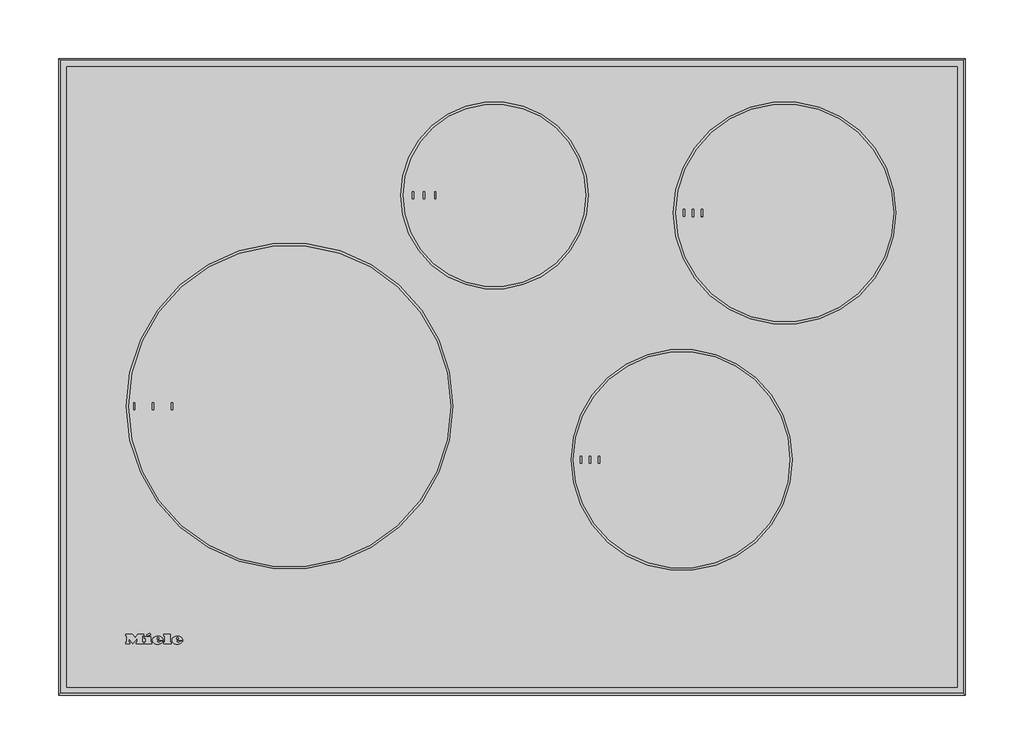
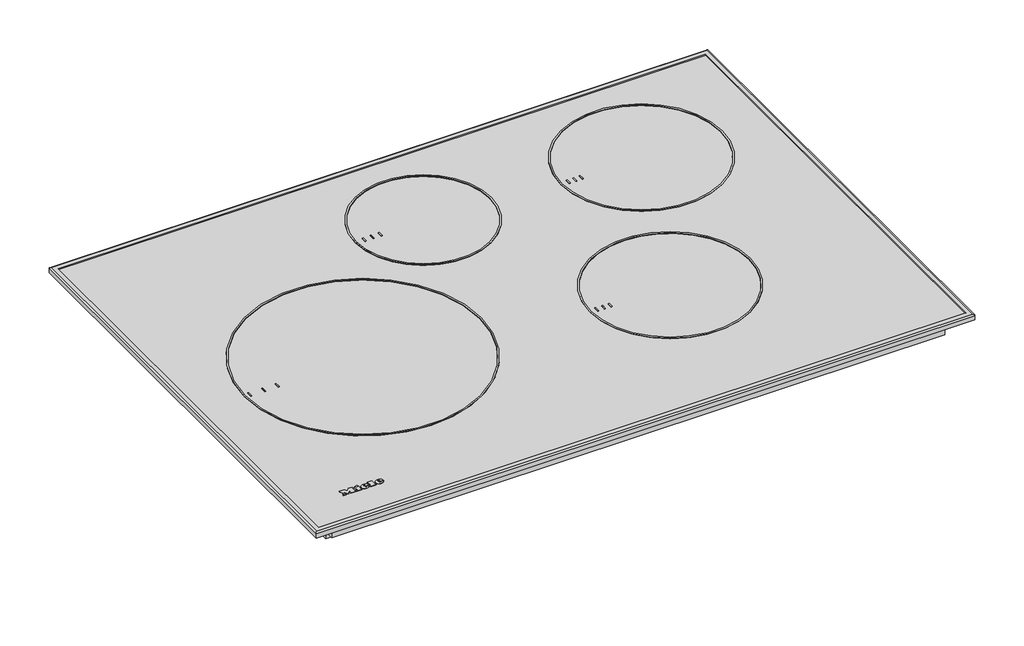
# Not in any storey: 1 proxy.
"""IFC4 building model written with IfcOpenShell, lengths in millimetres."""

from ifc_helpers import new_model, si_unit, origin, place, context, project, spatial, transform, mapped, element, save
from components import specialty_equipment_73e40a91

model = new_model("IFC4")

# Units and contexts
model_context = context("Model", 3, world=origin())
ifc_project = project(units=[si_unit("LENGTHUNIT", "METRE", prefix="MILLI")], contexts=[model_context])

# Site, building
site = spatial("IfcSite", under=ifc_project)
building = spatial("IfcBuilding", under=site)

# Proxy
placement = place(None, origin())
specialty_equipment_shape = specialty_equipment_73e40a91(model_context)
element("IfcBuildingElementProxy", 1, Name="12074200_USA_KM7730FR : 26773000_USA_12074200_KM7730FR", ObjectType="12074200_USA_KM7730FR : 26773000_USA_12074200_KM7730FR", at=placement, inside=building, context=model_context, shape_type="MappedRepresentation", body=[
    mapped(specialty_equipment_shape, transform((0.0, 0.0, 0.0), x_axis=(1.0, 0.0, 0.0), y_axis=(0.0, 1.0, 0.0), z_axis=(0.0, 0.0, 1.0))),
])

save(model, "model.ifc")
